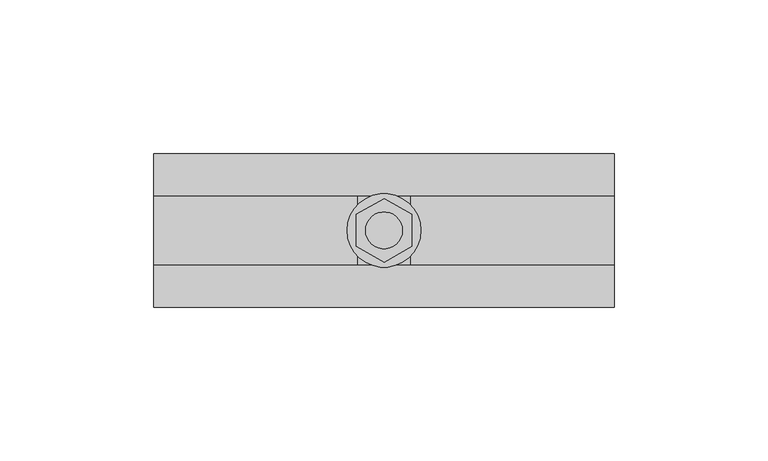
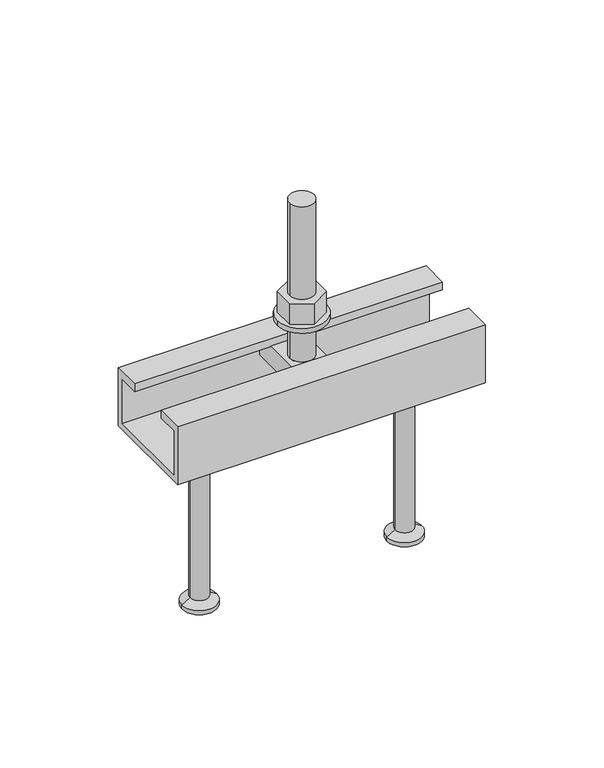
"""IFC4 building model written with IfcOpenShell, lengths in millimetres: fastener geometry, JTA-W JORDAHL® AnchorChannels : JTA-W L=150 mm."""

import ifcopenshell
import ifcopenshell.guid

model = None  # the IFC model being written
_history = None  # IfcOwnerHistory: only IFC2X3 demands one
_inside = {}  # id of a spatial element -> (the spatial element, [elements in it])
_under = {}  # id of a project, library or spatial element -> (it, [spatial elements below it])
_declared = {}  # id of a project -> (the project, [libraries it declares])
_typed = {}  # id of a type object -> (the type object, [elements of that type])
_made_of = {}  # id of a material, layer set ... -> (it, [elements and type objects made of it])


def new_model(schema):
    """Start an empty IFC model of exactly this schema.

    Asked for "IFC4X3", IfcOpenShell would pick the latest addendum, in which some entities
    have other attributes; the version numbers below select the first issue.
    IFC2X3 requires an IfcOwnerHistory on every rooted entity: one is made here for all.
    """
    global model, _history
    if schema == "IFC4X3":
        model = ifcopenshell.file(schema_version=(4, 3, 0, 0))
    else:
        model = ifcopenshell.file(schema=schema)
    _inside.clear()
    _under.clear()
    _declared.clear()
    _typed.clear()
    _made_of.clear()
    _history = None
    if model.schema == "IFC2X3":
        org = make("IfcOrganization", Name="unknown")
        user = make(
            "IfcPersonAndOrganization",
            ThePerson=make("IfcPerson", FamilyName="unknown"),
            TheOrganization=org,
        )
        app = make(
            "IfcApplication",
            ApplicationDeveloper=org,
            Version="unknown",
            ApplicationFullName="unknown",
            ApplicationIdentifier="unknown",
        )
        _history = make(
            "IfcOwnerHistory",
            OwningUser=user,
            OwningApplication=app,
            ChangeAction="ADDED",
            CreationDate=0,
        )
    return model


def make(cls, **values):
    """One entity of the class cls with the attributes given. An attribute that is None is left unset."""
    return model.create_entity(
        cls, **{name: value for name, value in values.items() if value is not None}
    )


def rooted(cls, **values):
    """An entity with a GlobalId (a new one), such as an element, a storey or a relation."""
    return make(cls, GlobalId=ifcopenshell.guid.new(), OwnerHistory=_history, **values)


def si_unit(unit_type, name, prefix=None):
    """IfcSIUnit, for example si_unit("LENGTHUNIT", "METRE", prefix="MILLI")."""
    return make("IfcSIUnit", UnitType=unit_type, Prefix=prefix, Name=name)


def assignment(units):
    """IfcUnitAssignment: the units of a project."""
    return None if units is None else make("IfcUnitAssignment", Units=units)


def point(xyz):
    """IfcCartesianPoint."""
    return None if xyz is None else make("IfcCartesianPoint", Coordinates=xyz)


def direction(xyz):
    """IfcDirection."""
    return None if xyz is None else make("IfcDirection", DirectionRatios=xyz)


def frame(location, z_axis=None, x_axis=None):
    """IfcAxis2Placement3D, a coordinate frame: its origin and axes. An axis left out is left unset."""
    return make(
        "IfcAxis2Placement3D",
        Location=point(location),
        Axis=direction(z_axis),
        RefDirection=direction(x_axis),
    )


def frame_2d(location, x_axis=None):
    """IfcAxis2Placement2D, a coordinate frame in the plane: its origin and x axis."""
    return make(
        "IfcAxis2Placement2D", Location=point(location), RefDirection=direction(x_axis)
    )


def origin():
    """The frame at (0, 0, 0) with its axes left unset."""
    return frame((0.0, 0.0, 0.0))


def place(relative_to, where):
    """IfcLocalPlacement: puts the frame where relative to a parent placement (None: the world)."""
    return make(
        "IfcLocalPlacement", PlacementRelTo=relative_to, RelativePlacement=where
    )


def context(
    kind, dimensions, precision=None, world=None, true_north=None, identifier=None
):
    """IfcGeometricRepresentationContext, for example the 3D "Model" context."""
    return make(
        "IfcGeometricRepresentationContext",
        ContextIdentifier=identifier,
        ContextType=kind,
        CoordinateSpaceDimension=dimensions,
        Precision=precision,
        WorldCoordinateSystem=world,
        TrueNorth=true_north,
    )


def project(units=None, contexts=None):
    """IfcProject with its units and contexts."""
    return rooted(
        "IfcProject",
        Name="project",
        RepresentationContexts=contexts,
        UnitsInContext=assignment(units),
    )


def spatial(cls, under=None, at=None, **own):
    """A site, building, storey or space (cls), placed at a placement, below another one or the project."""
    s = rooted(cls, ObjectPlacement=at, **own)
    if under is not None:
        _under.setdefault(under.id(), (under, []))[1].append(s)
    return s


def polyline(points):
    """IfcPolyline through the points."""
    return make("IfcPolyline", Points=[point(p) for p in points])


def circle_curve(where, radius):
    """IfcCircle in the frame where."""
    return make("IfcCircle", Position=where, Radius=radius)


def trimmed(basis, trim1, trim2, sense, master):
    """IfcTrimmedCurve: the piece of a basis curve between two trims."""
    return make(
        "IfcTrimmedCurve",
        BasisCurve=basis,
        Trim1=trim1,
        Trim2=trim2,
        SenseAgreement=sense,
        MasterRepresentation=master,
    )


def segment(curve, same_sense, transition):
    """IfcCompositeCurveSegment."""
    return make(
        "IfcCompositeCurveSegment",
        Transition=transition,
        SameSense=same_sense,
        ParentCurve=curve,
    )


def composite_curve(segments, self_intersect=None):
    """IfcCompositeCurve: segments joined end to end."""
    return make("IfcCompositeCurve", Segments=segments, SelfIntersect=self_intersect)


def outline(outer, holes=None, kind="AREA"):
    """IfcArbitraryClosedProfileDef: a profile drawn as a closed curve; with holes, ...WithVoids."""
    if holes is None:
        return make("IfcArbitraryClosedProfileDef", ProfileType=kind, OuterCurve=outer)
    return make(
        "IfcArbitraryProfileDefWithVoids",
        ProfileType=kind,
        OuterCurve=outer,
        InnerCurves=holes,
    )


def extrude(swept, where, along, depth):
    """IfcExtrudedAreaSolid: the profile swept, set in the frame where, extruded along a direction by depth."""
    return make(
        "IfcExtrudedAreaSolid",
        SweptArea=swept,
        Position=where,
        ExtrudedDirection=direction(along),
        Depth=depth,
    )


def shape(context_of_items, identifier, shape_type, items):
    """IfcShapeRepresentation: the items that make up one representation, for example the "Body"."""
    return make(
        "IfcShapeRepresentation",
        ContextOfItems=context_of_items,
        RepresentationIdentifier=identifier,
        RepresentationType=shape_type,
        Items=items,
    )


def source(mapping_origin, context_of_items, identifier, shape_type, items):
    """IfcRepresentationMap: a shape defined once, which mapped items show again and again."""
    return make(
        "IfcRepresentationMap",
        MappingOrigin=mapping_origin,
        MappedRepresentation=shape(context_of_items, identifier, shape_type, items),
    )


def transform(
    local_origin,
    x_axis=None,
    y_axis=None,
    z_axis=None,
    scale=None,
    scale2=None,
    scale3=None,
    uniform=True,
):
    """IfcCartesianTransformationOperator3D, or its non-uniform kind. x_axis, y_axis, z_axis: its Axis1, 2, 3."""
    if uniform:
        return make(
            "IfcCartesianTransformationOperator3D",
            Axis1=direction(x_axis),
            Axis2=direction(y_axis),
            LocalOrigin=point(local_origin),
            Scale=scale,
            Axis3=direction(z_axis),
        )
    return make(
        "IfcCartesianTransformationOperator3DnonUniform",
        Axis1=direction(x_axis),
        Axis2=direction(y_axis),
        LocalOrigin=point(local_origin),
        Scale=scale,
        Axis3=direction(z_axis),
        Scale2=scale2,
        Scale3=scale3,
    )


def mapped(mapping_source, mapping_target):
    """IfcMappedItem: shows the shape of a source again, moved by a transform."""
    return make(
        "IfcMappedItem", MappingSource=mapping_source, MappingTarget=mapping_target
    )


def made_of(thing, what):
    """Note that an element or type object is made of a material, layer set ...; save() writes the relation."""
    if what is not None:
        _made_of.setdefault(what.id(), (what, []))[1].append(thing)
    return thing


def element(
    cls,
    number,
    at=None,
    inside=None,
    cuts=None,
    type_object=None,
    material=None,
    context=None,
    identifier="Body",
    shape_type=None,
    held_by="IfcProductDefinitionShape",
    body=None,
    shapes=None,
    **own,
):
    """One element of the class cls, such as IfcWall. Its Tag is "e" and its number.

    at: its placement. inside: the storey or other place that contains it. cuts: it is an
    opening in that element (IfcRelVoidsElement). A single representation is given by context,
    identifier, shape_type and body (its items); several are given by shapes. held_by: the class
    of the entity that holds the representations. save() writes the other relations.
    """
    e = rooted(cls, Tag="e%d" % number, ObjectPlacement=at, **own)
    if body is not None:
        shapes = [shape(context, identifier, shape_type, body)]
    if shapes is not None:
        e.Representation = make(held_by, Representations=shapes)
    if inside is not None:
        _inside.setdefault(inside.id(), (inside, []))[1].append(e)
    if cuts is not None:
        rooted(
            "IfcRelVoidsElement", RelatingBuildingElement=cuts, RelatedOpeningElement=e
        )
    if type_object is not None:
        _typed.setdefault(type_object.id(), (type_object, []))[1].append(e)
    return made_of(e, material)


def aggregate(whole, parts):
    """IfcRelAggregates: a whole, such as a stair, and the parts it consists of."""
    return rooted("IfcRelAggregates", RelatingObject=whole, RelatedObjects=parts)


def save(model, path):
    """Write the relations noted so far, then the file.

    IfcRelAggregates (storeys below a building ...), IfcRelContainedInSpatialStructure (elements
    in a storey), IfcRelDefinesByType, IfcRelAssociatesMaterial and IfcRelDeclares: one each for
    every whole, place, type object, material and project.
    """
    for whole, parts in _under.values():
        aggregate(whole, parts)
    for where, things in _inside.values():
        rooted(
            "IfcRelContainedInSpatialStructure",
            RelatedElements=things,
            RelatingStructure=where,
        )
    for kind, things in _typed.values():
        rooted("IfcRelDefinesByType", RelatedObjects=things, RelatingType=kind)
    for what, things in _made_of.values():
        rooted("IfcRelAssociatesMaterial", RelatedObjects=things, RelatingMaterial=what)
    for by, libraries in _declared.values():
        rooted("IfcRelDeclares", RelatingContext=by, RelatedDefinitions=libraries)
    model.write(path)


def plane_surface(at):
    """IfcPlane: the flat surface through the origin of the frame at, square to its z axis."""
    return make("IfcPlane", Position=at)


def cylinder_surface(at, radius):
    """IfcCylindricalSurface: all points at the distance radius from the z axis of the frame at."""
    return make("IfcCylindricalSurface", Position=at, Radius=radius)


def revolved_surface(curve, axis_point, axis_direction):
    """IfcSurfaceOfRevolution: the curve turned about the line through axis_point along axis_direction."""
    return make(
        "IfcSurfaceOfRevolution",
        SweptCurve=make("IfcArbitraryOpenProfileDef", ProfileType="CURVE", Curve=curve),
        AxisPosition=make("IfcAxis1Placement", Location=point(axis_point), Axis=direction(axis_direction)),
    )


def advanced_brep(points, edges, surfaces, faces):
    """IfcAdvancedBrep: a solid bounded by faces that lie on surfaces and meet in shared edges.

    An edge is (start, end): straight between two places in points (the first is 0);
    or (start, end, curve); or (start, end, curve, False) where it runs against its curve.
    A face is (place in surfaces, loops), or (place, loops, False) where it looks against
    its surface's normal. A loop lists edges by number (the first is 1), with a minus sign
    where the edge is run from its end to its start. The first loop is the outer one.
    """
    corners = [point(p) for p in points]
    vertices = [make("IfcVertexPoint", VertexGeometry=c) for c in corners]
    made = []
    for start, end, *more in edges:
        made.append(
            make(
                "IfcEdgeCurve",
                EdgeStart=vertices[start],
                EdgeEnd=vertices[end],
                EdgeGeometry=more[0] if more else make("IfcPolyline", Points=[corners[start], corners[end]]),
                SameSense=more[1] if len(more) > 1 else True,
            )
        )
    hull = []
    for where, loops, *sense in faces:
        bounds = []
        for j, loop in enumerate(loops):
            ring = [make("IfcOrientedEdge", EdgeElement=made[abs(k) - 1], Orientation=k > 0) for k in loop]
            bounds.append(
                make(
                    "IfcFaceOuterBound" if j == 0 else "IfcFaceBound",
                    Bound=make("IfcEdgeLoop", EdgeList=ring),
                    Orientation=True,
                )
            )
        hull.append(make("IfcAdvancedFace", Bounds=bounds, FaceSurface=surfaces[where], SameSense=sense[0] if sense else True))
    return make("IfcAdvancedBrep", Outer=make("IfcClosedShell", CfsFaces=hull))


def fastener_07762de3(model_context):
    return source(origin(), model_context, "Body", "SolidModel", [
        extrude(outline(polyline([(75.0, -10.3923048), (66.0, -5.1961524), (66.0, 5.1961524), (75.0, 10.3923048), (84.0, 5.1961524), (84.0, -5.1961524), (75.0, -10.3923048)]), holes=[composite_curve([segment(trimmed(circle_curve(frame_2d((75.0, 0.0)), 6.0), [point((69.0, 0.0))], [point((81.0, 0.0))], True, "CARTESIAN"), True, "CONTINUOUS"), segment(trimmed(circle_curve(frame_2d((75.0, 0.0)), 6.0), [point((81.0, 0.0))], [point((69.0, 0.0))], True, "CARTESIAN"), True, "CONTINUOUS")], self_intersect=False)]), frame((0.0, 0.0, 17.5), z_axis=(0.0, 0.0, 1.0), x_axis=(1.0, 0.0, 0.0)), (0.0, 0.0, 1.0), 10.8),
        extrude(outline(composite_curve([segment(trimmed(circle_curve(frame_2d((75.0, 0.0)), 12.0), [point((63.0, 0.0))], [point((87.0, 0.0))], False, "CARTESIAN"), True, "CONTINUOUS"), segment(trimmed(circle_curve(frame_2d((75.0, 0.0)), 12.0), [point((87.0, 0.0))], [point((63.0, 0.0))], False, "CARTESIAN"), True, "CONTINUOUS")], self_intersect=False), holes=[composite_curve([segment(trimmed(circle_curve(frame_2d((75.0, 0.0)), 6.5), [point((68.5, 0.0))], [point((81.5, 0.0))], True, "CARTESIAN"), True, "CONTINUOUS"), segment(trimmed(circle_curve(frame_2d((75.0, 0.0)), 6.5), [point((81.5, 0.0))], [point((68.5, 0.0))], True, "CARTESIAN"), True, "CONTINUOUS")], self_intersect=False)]), frame((0.0, 0.0, 15.0), z_axis=(0.0, 0.0, 1.0), x_axis=(1.0, 0.0, 0.0)), (0.0, 0.0, 1.0), 2.5),
        advanced_brep(
        [(83.5, -20.7, -4.0), (83.5, -20.7, -14.0), (83.5, 20.7, -14.0), (83.5, 20.7, -4.0), (66.5, -20.7, -4.0), (66.5, 20.7, -4.0), (66.5, 20.7, -14.0), (66.5, -20.7, -14.0), (81.0, 0.0, -4.0), (69.0, 0.0, -4.0), (69.0, 0.0, 76.0), (81.0, 0.0, 76.0)],
        [
            (0, 1),
            (1, 2),
            (2, 3),
            (3, 0),
            (4, 5),
            (5, 6),
            (6, 7),
            (7, 4),
            (3, 5),
            (4, 0),
            (8, 9, circle_curve(frame((75.0, 0.0, -4.0), z_axis=(0.0, 0.0, -1.0), x_axis=(1.0, 0.0, 0.0)), 6.0)),
            (9, 8, circle_curve(frame((75.0, 0.0, -4.0), z_axis=(0.0, 0.0, -1.0), x_axis=(1.0, 0.0, 0.0)), 6.0)),
            (2, 6),
            (1, 7),
            (10, 11, circle_curve(frame((75.0, 0.0, 76.0), z_axis=(0.0, 0.0, 1.0), x_axis=(1.0, 0.0, 0.0)), 6.0)),
            (11, 10, circle_curve(frame((75.0, 0.0, 76.0), z_axis=(0.0, 0.0, 1.0), x_axis=(1.0, 0.0, 0.0)), 6.0)),
            (11, 8),
            (9, 10),
        ],
        [
            plane_surface(frame((83.5, 20.7, -4.0), z_axis=(1.0, 0.0, 0.0), x_axis=(0.0, 1.0, 0.0))),
            plane_surface(frame((66.5, 20.7, -4.0), z_axis=(-1.0, 0.0, 0.0), x_axis=(0.0, -1.0, 0.0))),
            plane_surface(frame((83.5, -20.7, -4.0), z_axis=(0.0, 0.0, 1.0), x_axis=(-1.0, 0.0, 0.0))),
            plane_surface(frame((83.5, 20.7, -4.0), z_axis=(0.0, 1.0, 0.0), x_axis=(-1.0, 0.0, 0.0))),
            plane_surface(frame((83.5, 20.7, -14.0), z_axis=(0.0, 0.0, -1.0), x_axis=(-1.0, 0.0, 0.0))),
            plane_surface(frame((83.5, -20.7, -14.0), z_axis=(0.0, -1.0, 0.0), x_axis=(-1.0, 0.0, 0.0))),
            plane_surface(frame((81.0, 0.0, 76.0), z_axis=(0.0, 0.0, 1.0), x_axis=(0.0, -1.0, 0.0))),
            cylinder_surface(frame((75.0, 0.0, -4.0), z_axis=(0.0, 0.0, 1.0), x_axis=(1.0, 0.0, 0.0)), 6.0),
        ],
        [
            (0, [[1, 2, 3, 4]]),
            (1, [[5, 6, 7, 8]]),
            (2, [[9, -5, 10, -4], [11, 12]]),
            (3, [[13, -6, -9, -3]]),
            (4, [[14, -7, -13, -2]]),
            (5, [[-10, -8, -14, -1]]),
            (6, [[15, 16]]),
            (7, [[17, -12, 18, -16]]),
            (7, [[-18, -11, -17, -15]]),
        ],
    ),
        advanced_brep(
        [(125.0, 0.0, -30.0), (111.5, 0.0, -30.0), (138.5, 0.0, -30.0), (116.5, 0.0, -115.0), (125.0, 0.0, -115.0), (133.5, 0.0, -115.0), (116.5, 0.0, -113.0), (133.5, 0.0, -113.0), (120.5, 0.0, -110.6905989), (129.5, 0.0, -110.6905989), (120.5, 0.0, -32.5), (129.5, 0.0, -32.5)],
        [
            (0, 1),
            (1, 2, circle_curve(frame((125.0, 0.0, -30.0), z_axis=(0.0, 0.0, 1.0), x_axis=(1.0, 0.0, 0.0)), 13.5)),
            (2, 0),
            (2, 1, circle_curve(frame((125.0, 0.0, -30.0), z_axis=(0.0, 0.0, 1.0), x_axis=(1.0, 0.0, 0.0)), 13.5)),
            (3, 4),
            (4, 5),
            (5, 3, circle_curve(frame((125.0, 0.0, -115.0), z_axis=(0.0, 0.0, -1.0), x_axis=(1.0, 0.0, 0.0)), 8.5)),
            (3, 5, circle_curve(frame((125.0, 0.0, -115.0), z_axis=(0.0, 0.0, -1.0), x_axis=(1.0, 0.0, 0.0)), 8.5)),
            (6, 3),
            (5, 7),
            (7, 6, circle_curve(frame((125.0, 0.0, -113.0), z_axis=(0.0, 0.0, -1.0), x_axis=(1.0, 0.0, 0.0)), 8.5)),
            (6, 7, circle_curve(frame((125.0, 0.0, -113.0), z_axis=(0.0, 0.0, -1.0), x_axis=(1.0, 0.0, 0.0)), 8.5)),
            (8, 6),
            (7, 9),
            (9, 8, circle_curve(frame((125.0, 0.0, -110.6905989), z_axis=(0.0, 0.0, -1.0), x_axis=(1.0, 0.0, 0.0)), 4.5)),
            (8, 9, circle_curve(frame((125.0, 0.0, -110.6905989), z_axis=(0.0, 0.0, -1.0), x_axis=(1.0, 0.0, 0.0)), 4.5)),
            (10, 8),
            (9, 11),
            (11, 10, circle_curve(frame((125.0, 0.0, -32.5), z_axis=(0.0, 0.0, -1.0), x_axis=(1.0, 0.0, 0.0)), 4.5)),
            (10, 11, circle_curve(frame((125.0, 0.0, -32.5), z_axis=(0.0, 0.0, -1.0), x_axis=(1.0, 0.0, 0.0)), 4.5)),
            (1, 10),
            (11, 2),
        ],
        [
            plane_surface(frame((125.0, 0.0, -30.0), z_axis=(0.0, 0.0, 1.0), x_axis=(1.0, 0.0, 0.0))),
            plane_surface(frame((125.0, 0.0, -115.0), z_axis=(0.0, 0.0, -1.0), x_axis=(1.0, 0.0, 0.0))),
            cylinder_surface(frame((125.0, 0.0, 2299.3150031), z_axis=(0.0, 0.0, 1.0), x_axis=(1.0, 0.0, 0.0)), 8.5),
            revolved_surface(polyline([(133.5, 0.0, -113.0), (129.5, 0.0, -110.6905989)]), (125.0, 0.0, 2299.3150031), (0.0, 0.0, 1.0)),
            cylinder_surface(frame((125.0, 0.0, 2299.3150031), z_axis=(0.0, 0.0, 1.0), x_axis=(1.0, 0.0, 0.0)), 4.5),
            revolved_surface(polyline([(129.5, 0.0, -32.5), (138.5, 0.0, -30.0)]), (125.0, 0.0, 2299.3150031), (0.0, 0.0, 1.0)),
        ],
        [
            (0, [[1, 2, 3]]),
            (0, [[-3, 4, -1]]),
            (1, [[5, 6, 7]]),
            (1, [[-6, -5, 8]]),
            (2, [[9, -7, 10, 11]]),
            (2, [[-10, -8, -9, 12]]),
            (3, [[13, -11, 14, 15]]),
            (3, [[-14, -12, -13, 16]]),
            (4, [[17, -15, 18, 19]]),
            (4, [[-18, -16, -17, 20]]),
            (5, [[21, -19, 22, -2]]),
            (5, [[-22, -20, -21, -4]]),
        ],
    ),
        advanced_brep(
        [(25.0, 0.0, -30.0), (11.5, 0.0, -30.0), (38.5, 0.0, -30.0), (16.5, 0.0, -115.0), (25.0, 0.0, -115.0), (33.5, 0.0, -115.0), (16.5, 0.0, -113.0), (33.5, 0.0, -113.0), (20.5, 0.0, -110.6905989), (29.5, 0.0, -110.6905989), (20.5, 0.0, -32.5), (29.5, 0.0, -32.5)],
        [
            (0, 1),
            (1, 2, circle_curve(frame((25.0, 0.0, -30.0), z_axis=(0.0, 0.0, 1.0), x_axis=(1.0, 0.0, 0.0)), 13.5)),
            (2, 0),
            (2, 1, circle_curve(frame((25.0, 0.0, -30.0), z_axis=(0.0, 0.0, 1.0), x_axis=(1.0, 0.0, 0.0)), 13.5)),
            (3, 4),
            (4, 5),
            (5, 3, circle_curve(frame((25.0, 0.0, -115.0), z_axis=(0.0, 0.0, -1.0), x_axis=(1.0, 0.0, 0.0)), 8.5)),
            (3, 5, circle_curve(frame((25.0, 0.0, -115.0), z_axis=(0.0, 0.0, -1.0), x_axis=(1.0, 0.0, 0.0)), 8.5)),
            (6, 3),
            (5, 7),
            (7, 6, circle_curve(frame((25.0, 0.0, -113.0), z_axis=(0.0, 0.0, -1.0), x_axis=(1.0, 0.0, 0.0)), 8.5)),
            (6, 7, circle_curve(frame((25.0, 0.0, -113.0), z_axis=(0.0, 0.0, -1.0), x_axis=(1.0, 0.0, 0.0)), 8.5)),
            (8, 6),
            (7, 9),
            (9, 8, circle_curve(frame((25.0, 0.0, -110.6905989), z_axis=(0.0, 0.0, -1.0), x_axis=(1.0, 0.0, 0.0)), 4.5)),
            (8, 9, circle_curve(frame((25.0, 0.0, -110.6905989), z_axis=(0.0, 0.0, -1.0), x_axis=(1.0, 0.0, 0.0)), 4.5)),
            (10, 8),
            (9, 11),
            (11, 10, circle_curve(frame((25.0, 0.0, -32.5), z_axis=(0.0, 0.0, -1.0), x_axis=(1.0, 0.0, 0.0)), 4.5)),
            (10, 11, circle_curve(frame((25.0, 0.0, -32.5), z_axis=(0.0, 0.0, -1.0), x_axis=(1.0, 0.0, 0.0)), 4.5)),
            (1, 10),
            (11, 2),
        ],
        [
            plane_surface(frame((25.0, 0.0, -30.0), z_axis=(0.0, 0.0, 1.0), x_axis=(1.0, 0.0, 0.0))),
            plane_surface(frame((25.0, 0.0, -115.0), z_axis=(0.0, 0.0, -1.0), x_axis=(1.0, 0.0, 0.0))),
            cylinder_surface(frame((25.0, 0.0, 2299.3150031), z_axis=(0.0, 0.0, 1.0), x_axis=(1.0, 0.0, 0.0)), 8.5),
            revolved_surface(polyline([(33.5, 0.0, -113.0), (29.5, 0.0, -110.6905989)]), (25.0, 0.0, 2299.3150031), (0.0, 0.0, 1.0)),
            cylinder_surface(frame((25.0, 0.0, 2299.3150031), z_axis=(0.0, 0.0, 1.0), x_axis=(1.0, 0.0, 0.0)), 4.5),
            revolved_surface(polyline([(29.5, 0.0, -32.5), (38.5, 0.0, -30.0)]), (25.0, 0.0, 2299.3150031), (0.0, 0.0, 1.0)),
        ],
        [
            (0, [[1, 2, 3]]),
            (0, [[-3, 4, -1]]),
            (1, [[5, 6, 7]]),
            (1, [[-6, -5, 8]]),
            (2, [[9, -7, 10, 11]]),
            (2, [[-10, -8, -9, 12]]),
            (3, [[13, -11, 14, 15]]),
            (3, [[-14, -12, -13, 16]]),
            (4, [[17, -15, 18, 19]]),
            (4, [[-18, -16, -17, 20]]),
            (5, [[21, -19, 22, -2]]),
            (5, [[-22, -20, -21, -4]]),
        ],
    ),
        extrude(outline(polyline([(-25.0, 0.0), (-11.25, 0.0), (-11.25, -4.0), (-22.2, -4.0), (-22.2, -27.2), (22.2, -27.2), (22.2, -4.0), (11.25, -4.0), (11.25, 0.0), (25.0, 0.0), (25.0, -30.0), (-25.0, -30.0), (-25.0, 0.0)])), frame((0.0, 0.0, 0.0), z_axis=(1.0, 0.0, 0.0), x_axis=(0.0, 1.0, 0.0)), (0.0, 0.0, 1.0), 150.0),
    ])


if __name__ == "__main__":
    model = new_model("IFC4")
    model_context = context("Model", 3, world=origin())
    ifc_project = project(units=[si_unit("LENGTHUNIT", "METRE", prefix="MILLI")], contexts=[model_context])
    site = spatial("IfcSite", under=ifc_project)
    building = spatial("IfcBuilding", under=site)
    placement = place(None, origin())
    fastener_shape = fastener_07762de3(model_context)
    element("IfcFastener", 1, ObjectType="JTA-W JORDAHL® AnchorChannels : JTA-W L=150 mm", at=placement, inside=building, context=model_context, shape_type="MappedRepresentation", body=[
        mapped(fastener_shape, transform((0.0, 0.0, 0.0), x_axis=(1.0, 0.0, 0.0), y_axis=(0.0, 1.0, 0.0), z_axis=(0.0, 0.0, 1.0))),
    ])
    save(model, "model.ifc")
